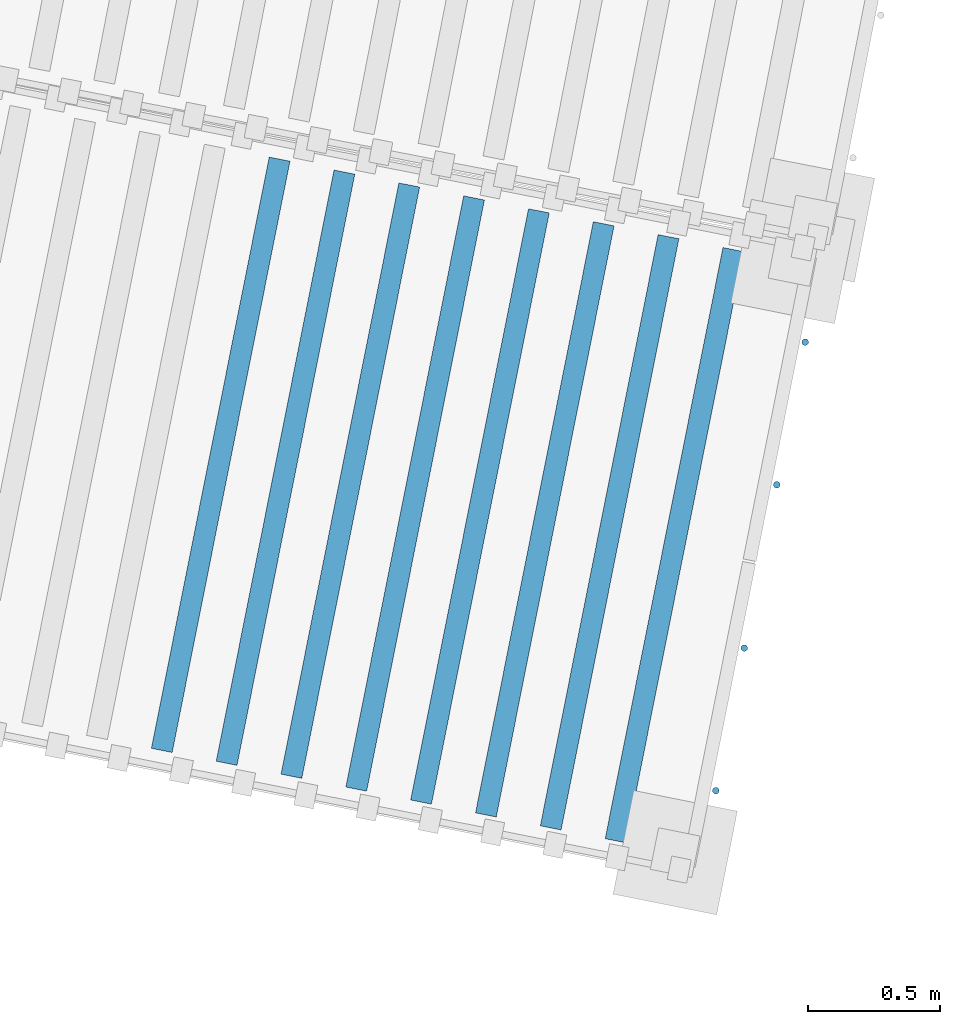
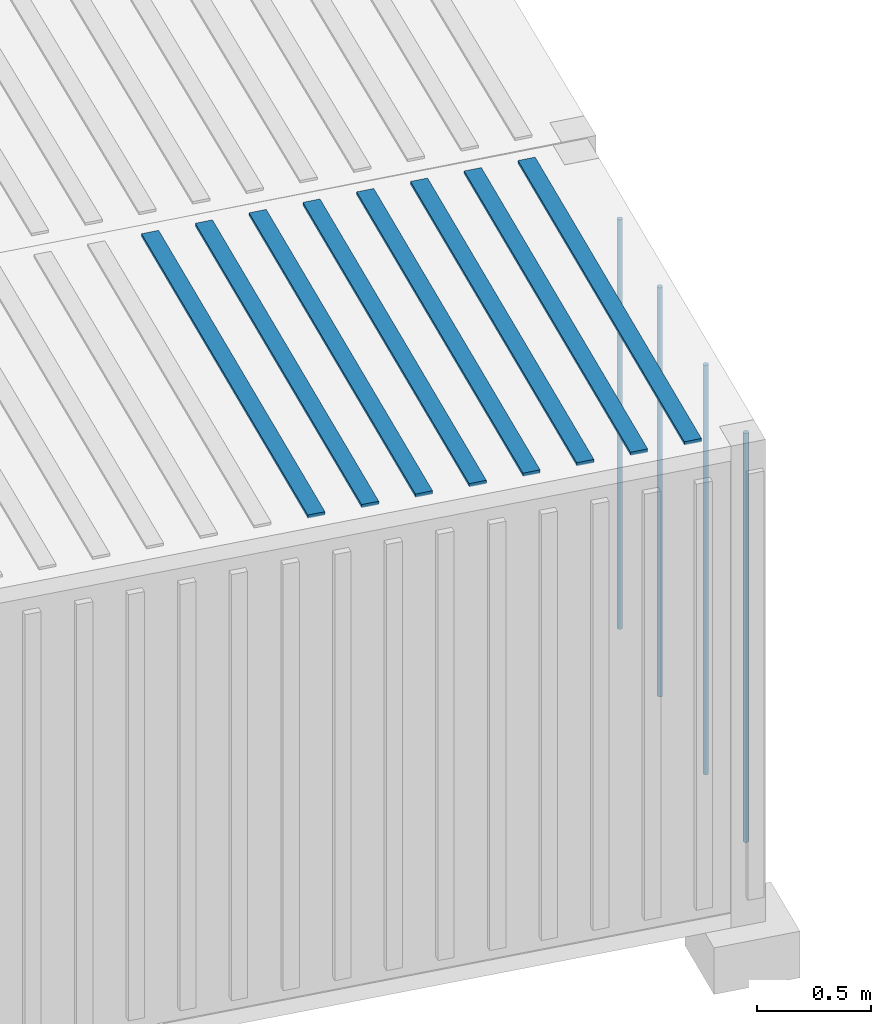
# One storey, part 24 of 131: 12 members, 1 element without a shape of its own.
"""IFC4 building model written with IfcOpenShell, lengths in metres."""

from ifc_helpers import new_model, si_unit, direction, frame, origin_with_axes, place, context, subcontext, project, spatial, polyline, circle, outline, extrude, material, material_profile, profile_set, profile_usage, type_object, element, aggregate, save


model = new_model("IFC4")

# Units and contexts
model_context = context("Model", 3, precision=1e-05, world=origin_with_axes(), true_north=direction((0.0, 1.0)))
body_context = subcontext(model_context, "Body", "Model", "MODEL_VIEW")
ifc_project = project(units=[si_unit("VOLUMEUNIT", "CUBIC_METRE"), si_unit("LENGTHUNIT", "METRE"), si_unit("AREAUNIT", "SQUARE_METRE")], contexts=[model_context])

# Site, building, storey
site_placement = place(None, origin_with_axes())
site = spatial("IfcSite", under=ifc_project, at=site_placement, Name="Lares · Rua das Mercês · artigo 4771")
building_placement = place(site_placement, frame((15.0, 9.7, 14.65), z_axis=(0.0, 0.0, 1.0), x_axis=(0.989015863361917, -0.147809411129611, 0.0)))
building = spatial("IfcBuilding", under=site, at=building_placement, Name="Casa Sobreposta")
storey_placement = place(building_placement, origin_with_axes())
storey = spatial("IfcBuildingStorey", under=building, at=storey_placement, Name="00 · Habitação e estacionamento", Elevation=14.65)

# Assembly, members
assembly_placement = place(storey_placement, frame((-14.5932944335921, 6.63122214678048, 0.0), z_axis=(0.0, 0.0, 1.0), x_axis=(0.998832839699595, -0.0483007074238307, 0.0)))
assembly = element("IfcElementAssembly", 1, at=assembly_placement, inside=storey, Name="Contentor existente 2 · 6 m", ObjectType="EXISTING_SHIPPING_CONTAINER", PredefinedType="USERDEFINED")
ifc_material_1 = material(Name="Aço galvanizado / Stahl verzinkt", Category="steel")
ifc_material_profile = material_profile(ifc_material_1, circle(Radius=0.0125))
ifc_profile_set = profile_set([ifc_material_profile], Name="D0.025")
ifc_profile_usage_1 = profile_usage(ifc_profile_set)
member_type = type_object("IfcMemberType", Name="D0.025 / galvanized", PredefinedType="NOTDEFINED", material=ifc_profile_set)
member_1_placement = place(assembly_placement, frame((6.025, 0.34, -1.1), z_axis=(0.0, 0.0, 1.0), x_axis=(1.0, 0.0, 0.0)))
member_1 = element("IfcMember", 2, at=member_1_placement, type_object=member_type, material=ifc_profile_usage_1, Name="Contentor · varão de fecho", context=body_context, shape_type="SweptSolid", body=[
    extrude(circle(Radius=0.0125), origin_with_axes(), (0.0, 0.0, 1.0), 2.2),
])
ifc_profile_usage_2 = profile_usage(ifc_profile_set)
member_2_placement = place(assembly_placement, frame((6.025, 0.89, -1.1), z_axis=(0.0, 0.0, 1.0), x_axis=(1.0, 0.0, 0.0)))
member_2 = element("IfcMember", 3, at=member_2_placement, type_object=member_type, material=ifc_profile_usage_2, Name="Contentor · varão de fecho", context=body_context, shape_type="SweptSolid", body=[
    extrude(circle(Radius=0.0125), origin_with_axes(), (0.0, 0.0, 1.0), 2.2),
])
ifc_profile_usage_3 = profile_usage(ifc_profile_set)
member_3_placement = place(assembly_placement, frame((6.025, 1.52, -1.1), z_axis=(0.0, 0.0, 1.0), x_axis=(1.0, 0.0, 0.0)))
member_3 = element("IfcMember", 4, at=member_3_placement, type_object=member_type, material=ifc_profile_usage_3, Name="Contentor · varão de fecho", context=body_context, shape_type="SweptSolid", body=[
    extrude(circle(Radius=0.0125), origin_with_axes(), (0.0, 0.0, 1.0), 2.2),
])
ifc_profile_usage_4 = profile_usage(ifc_profile_set)
member_4_placement = place(assembly_placement, frame((6.025, 2.07, -1.1), z_axis=(0.0, 0.0, 1.0), x_axis=(1.0, 0.0, 0.0)))
member_4 = element("IfcMember", 5, at=member_4_placement, type_object=member_type, material=ifc_profile_usage_4, Name="Contentor · varão de fecho", context=body_context, shape_type="SweptSolid", body=[
    extrude(circle(Radius=0.0125), origin_with_axes(), (0.0, 0.0, 1.0), 2.2),
])
ifc_material_2 = material(Name="Contentor · pintura 2", Category="steel")
member_5_placement = place(assembly_placement, frame((0.0, 0.0, 1.285), z_axis=(0.0, 0.0, 1.0), x_axis=(1.0, 0.0, 0.0)))
member_5 = element("IfcMember", 6, at=member_5_placement, material=ifc_material_2, Name="Contentor · nervura cobertura", context=body_context, shape_type="SweptSolid", body=[
    extrude(outline(polyline([(3.98, 0.08), (3.98, 2.36), (3.9, 2.36), (3.9, 0.08), (3.98, 0.08)])), origin_with_axes(), (0.0, 0.0, 1.0), 0.018),
])
member_6_placement = place(assembly_placement, frame((0.0, 0.0, 1.285), z_axis=(0.0, 0.0, 1.0), x_axis=(1.0, 0.0, 0.0)))
member_6 = element("IfcMember", 7, at=member_6_placement, material=ifc_material_2, Name="Contentor · nervura cobertura", context=body_context, shape_type="SweptSolid", body=[
    extrude(outline(polyline([(4.23, 0.08), (4.23, 2.36), (4.15, 2.36), (4.15, 0.08), (4.23, 0.08)])), origin_with_axes(), (0.0, 0.0, 1.0), 0.018),
])
member_7_placement = place(assembly_placement, frame((0.0, 0.0, 1.285), z_axis=(0.0, 0.0, 1.0), x_axis=(1.0, 0.0, 0.0)))
member_7 = element("IfcMember", 8, at=member_7_placement, material=ifc_material_2, Name="Contentor · nervura cobertura", context=body_context, shape_type="SweptSolid", body=[
    extrude(outline(polyline([(4.48, 0.08), (4.48, 2.36), (4.4, 2.36), (4.4, 0.08), (4.48, 0.08)])), origin_with_axes(), (0.0, 0.0, 1.0), 0.018),
])
member_8_placement = place(assembly_placement, frame((0.0, 0.0, 1.285), z_axis=(0.0, 0.0, 1.0), x_axis=(1.0, 0.0, 0.0)))
member_8 = element("IfcMember", 9, at=member_8_placement, material=ifc_material_2, Name="Contentor · nervura cobertura", context=body_context, shape_type="SweptSolid", body=[
    extrude(outline(polyline([(4.73, 0.08), (4.73, 2.36), (4.65, 2.36), (4.65, 0.08), (4.73, 0.08)])), origin_with_axes(), (0.0, 0.0, 1.0), 0.018),
])
member_9_placement = place(assembly_placement, frame((0.0, 0.0, 1.285), z_axis=(0.0, 0.0, 1.0), x_axis=(1.0, 0.0, 0.0)))
member_9 = element("IfcMember", 10, at=member_9_placement, material=ifc_material_2, Name="Contentor · nervura cobertura", context=body_context, shape_type="SweptSolid", body=[
    extrude(outline(polyline([(4.98, 0.08), (4.98, 2.36), (4.9, 2.36), (4.9, 0.08), (4.98, 0.08)])), origin_with_axes(), (0.0, 0.0, 1.0), 0.018),
])
member_10_placement = place(assembly_placement, frame((0.0, 0.0, 1.285), z_axis=(0.0, 0.0, 1.0), x_axis=(1.0, 0.0, 0.0)))
member_10 = element("IfcMember", 11, at=member_10_placement, material=ifc_material_2, Name="Contentor · nervura cobertura", context=body_context, shape_type="SweptSolid", body=[
    extrude(outline(polyline([(5.23, 0.08), (5.23, 2.36), (5.15, 2.36), (5.15, 0.08), (5.23, 0.08)])), origin_with_axes(), (0.0, 0.0, 1.0), 0.018),
])
member_11_placement = place(assembly_placement, frame((0.0, 0.0, 1.285), z_axis=(0.0, 0.0, 1.0), x_axis=(1.0, 0.0, 0.0)))
member_11 = element("IfcMember", 12, at=member_11_placement, material=ifc_material_2, Name="Contentor · nervura cobertura", context=body_context, shape_type="SweptSolid", body=[
    extrude(outline(polyline([(5.48, 0.08), (5.48, 2.36), (5.4, 2.36), (5.4, 0.08), (5.48, 0.08)])), origin_with_axes(), (0.0, 0.0, 1.0), 0.018),
])
member_12_placement = place(assembly_placement, frame((0.0, 0.0, 1.285), z_axis=(0.0, 0.0, 1.0), x_axis=(1.0, 0.0, 0.0)))
member_12 = element("IfcMember", 13, at=member_12_placement, material=ifc_material_2, Name="Contentor · nervura cobertura", context=body_context, shape_type="SweptSolid", body=[
    extrude(outline(polyline([(5.73, 0.08), (5.73, 2.36), (5.65, 2.36), (5.65, 0.08), (5.73, 0.08)])), origin_with_axes(), (0.0, 0.0, 1.0), 0.018),
])
aggregate(assembly, [member_1, member_2, member_3, member_4, member_5, member_6, member_7, member_8, member_9, member_10, member_11, member_12])

save(model, "model.ifc")
